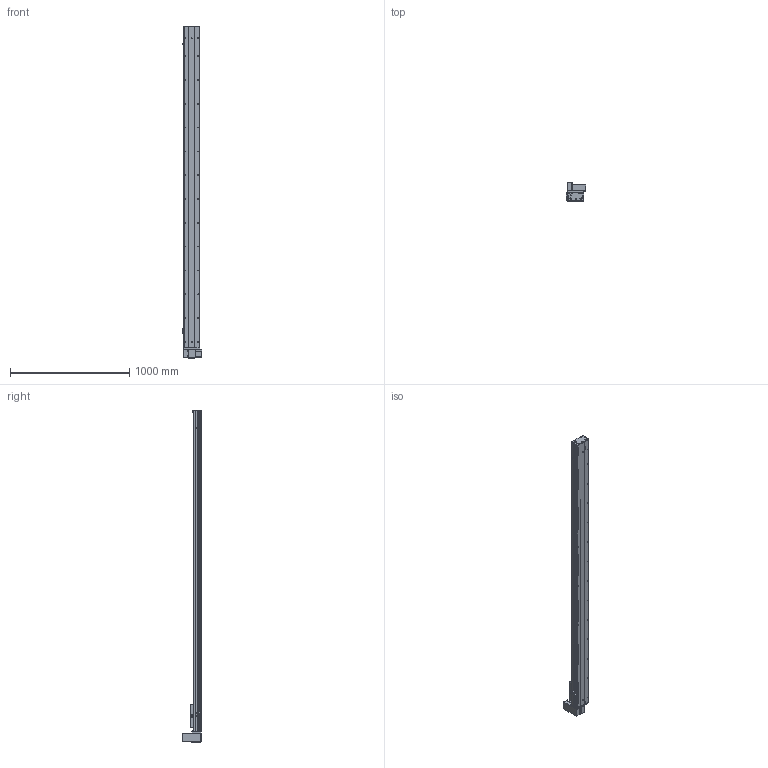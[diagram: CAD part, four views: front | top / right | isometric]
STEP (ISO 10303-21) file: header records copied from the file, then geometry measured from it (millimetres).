
FILE_DESCRIPTION (( 'STEP AP203' ), '1' );
FILE_NAME ('Y135CB-D90-S2400-UR-P400W.STEP', '2020-02-18T06:35:04', ( '微软用户' ), ( '微软中国' ), 'SwSTEP 2.0', 'SolidWorks 2017', '' );
FILE_SCHEMA (( 'CONFIG_CONTROL_DESIGN' ));
Length unit declared in the file: millimetre
Products named in the file (18): 5CB --掛极耜裔啣-; 00B-俋欶BM--; C-詩湍揤踡え-陔; Y135CB-耜裔; Y135CB-D90-S2400-UR-P400W; 135CB--詩湍-CE; 135CB---遴掛极.-; Y100-135俋离換覜ん--; 35CB---喘謫眊楊擘啣; Y135C-陔俋离換覜結え-; 0B-埴倛裔啣; 5C--俋欶; 0B-源倛裔啣; C-雄赽釱--; 0B-萇儂楊擘啣; Y10B--々湍喘謫眊--666; san松下电机400不带刹车----; Y10B-耜蚾蟀諉啣----
Assembly tree (21 placements, depth 2):
  Y135CB-D90-S2400-UR-P400W
    Y135CB-耜裔
    135CB---遴掛极.-
    35CB---喘謫眊楊擘啣
    0B-埴倛裔啣
    0B-源倛裔啣
    0B-萇儂楊擘啣
    san松下电机400不带刹车----
    5CB --掛极耜裔啣-  x2
    C-詩湍揤踡え-陔  x2
    135CB--詩湍-CE
    Y100-135俋离換覜ん--  x3
    Y135C-陔俋离換覜結え-
    5C--俋欶
    C-雄赽釱--
    Y10B--々湍喘謫眊--666
    Y10B-耜蚾蟀諉啣----
    00B-俋欶BM--
Bounding box: 167.5 x 158.7 x 2788 mm (x, y, z)
Volume: 8022128.4 mm3; surface area: 3175751.1 mm2
Topology: 21 solids, 21 shells, 973 faces, 2653 edges, 1758 vertices
Faces by surface type: cylinder 501, plane 456, cone 16
Entity records: 30763 total; most frequent: CARTESIAN_POINT 5120, DIRECTION 5113, ORIENTED_EDGE 4782, EDGE_CURVE 2391, AXIS2_PLACEMENT_3D 1875, VERTEX_POINT 1586, LINE 1363, VECTOR 1363
